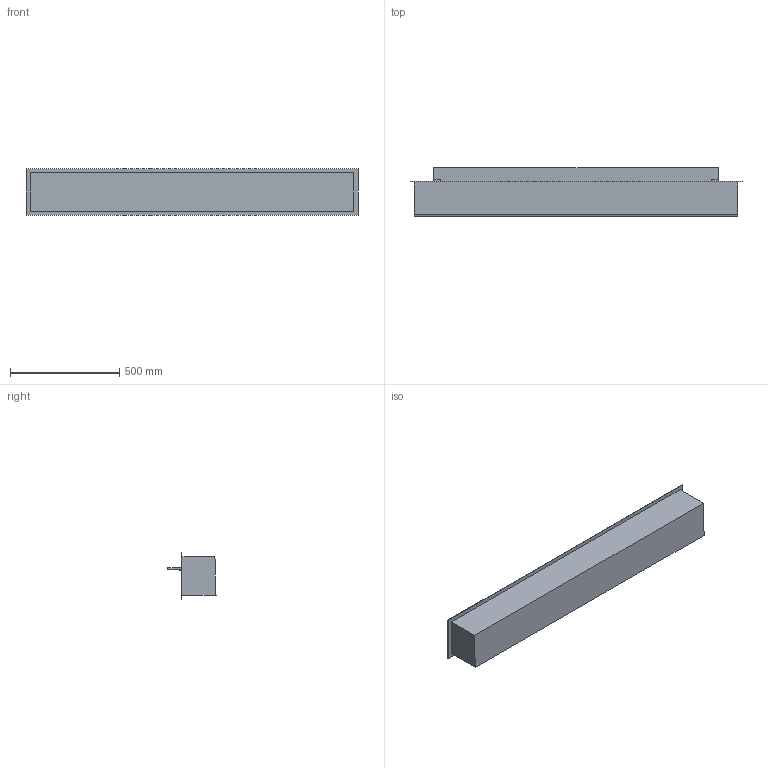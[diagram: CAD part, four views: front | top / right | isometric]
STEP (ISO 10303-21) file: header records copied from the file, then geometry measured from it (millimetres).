
FILE_DESCRIPTION (( 'STEP AP203' ), '1' );
FILE_NAME ('Denver F6 1520.STEP', '2024-03-13T09:20:54', ( '' ), ( '' ), 'SwSTEP 2.0', 'SolidWorks 2023', '' );
FILE_SCHEMA (( 'CONFIG_CONTROL_DESIGN' ));
Length unit declared in the file: millimetre
Products named in the file (1): Denver F6 1520
Bounding box: 1520 x 220 x 215 mm (x, y, z)
Volume: 42237119 mm3; surface area: 1922257.6 mm2
Topology: 8 solids, 8 shells, 68 faces, 156 edges, 104 vertices
Faces by surface type: plane 68
Entity records: 1955 total; most frequent: CARTESIAN_POINT 329, ORIENTED_EDGE 312, DIRECTION 294, EDGE_CURVE 156, LINE 156, VECTOR 156, VERTEX_POINT 104, EDGE_LOOP 74
